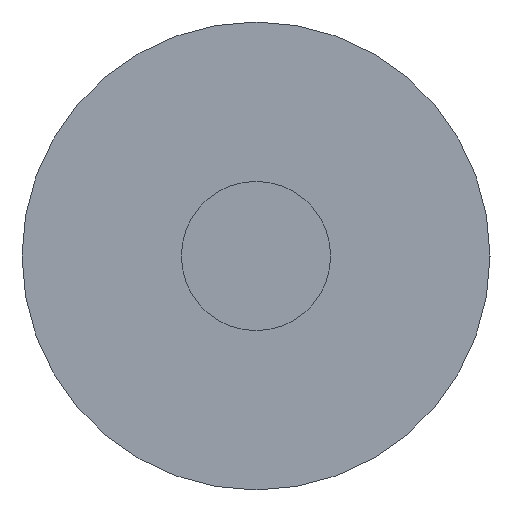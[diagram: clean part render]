
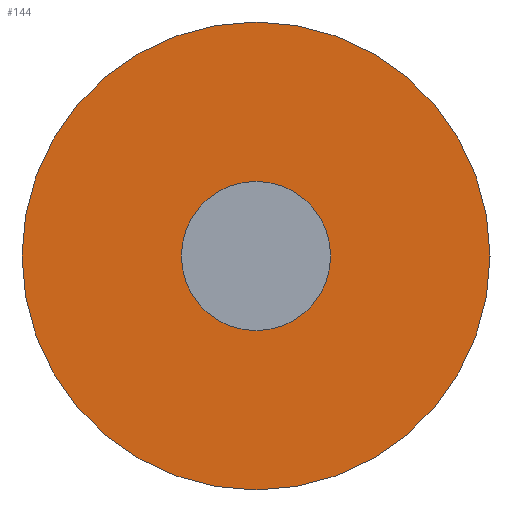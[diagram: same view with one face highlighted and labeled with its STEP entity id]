
A CAD part, left-side view. The second image highlights one B-rep face of the part: STEP entity #144.
In plain terms, the highlighted planar face has unit normal (-1, 0, 0).
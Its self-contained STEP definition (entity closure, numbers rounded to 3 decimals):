
#31 = CYLINDRICAL_SURFACE('',#32,16.);
#32 = AXIS2_PLACEMENT_3D('',#33,#34,#35);
#33 = CARTESIAN_POINT('',(-778.,550.,1185.));
#34 = DIRECTION('',(1.,0.,0.));
#35 = DIRECTION('',(-0.,0.,1.));
#56 = VERTEX_POINT('',#57);
#57 = CARTESIAN_POINT('',(-778.,550.,1201.));
#78 = EDGE_CURVE('',#56,#56,#79,.T.);
#79 = SURFACE_CURVE('',#80,(#85,#92),.PCURVE_S1.);
#80 = CIRCLE('',#81,16.);
#81 = AXIS2_PLACEMENT_3D('',#82,#83,#84);
#82 = CARTESIAN_POINT('',(-778.,550.,1185.));
#83 = DIRECTION('',(1.,0.,0.));
#84 = DIRECTION('',(-0.,0.,1.));
#85 = PCURVE('',#31,#86);
#86 = DEFINITIONAL_REPRESENTATION('',(#87),#91);
#87 = LINE('',#88,#89);
#88 = CARTESIAN_POINT('',(0.,0.));
#89 = VECTOR('',#90,1.);
#90 = DIRECTION('',(1.,0.));
#91 = ( GEOMETRIC_REPRESENTATION_CONTEXT(2) 
PARAMETRIC_REPRESENTATION_CONTEXT() REPRESENTATION_CONTEXT('2D SPACE',''
  ) );
#92 = PCURVE('',#93,#98);
#93 = PLANE('',#94);
#94 = AXIS2_PLACEMENT_3D('',#95,#96,#97);
#95 = CARTESIAN_POINT('',(-778.,550.,1185.));
#96 = DIRECTION('',(1.,0.,0.));
#97 = DIRECTION('',(-0.,0.,1.));
#98 = DEFINITIONAL_REPRESENTATION('',(#99),#103);
#99 = CIRCLE('',#100,16.);
#100 = AXIS2_PLACEMENT_2D('',#101,#102);
#101 = CARTESIAN_POINT('',(0.,0.));
#102 = DIRECTION('',(1.,0.));
#103 = ( GEOMETRIC_REPRESENTATION_CONTEXT(2) 
PARAMETRIC_REPRESENTATION_CONTEXT() REPRESENTATION_CONTEXT('2D SPACE',''
  ) );
#144 = ADVANCED_FACE('',(#145,#148),#93,.F.);
#145 = FACE_BOUND('',#146,.F.);
#146 = EDGE_LOOP('',(#147));
#147 = ORIENTED_EDGE('',*,*,#78,.T.);
#148 = FACE_BOUND('',#149,.F.);
#149 = EDGE_LOOP('',(#150));
#150 = ORIENTED_EDGE('',*,*,#151,.F.);
#151 = EDGE_CURVE('',#152,#152,#154,.T.);
#152 = VERTEX_POINT('',#153);
#153 = CARTESIAN_POINT('',(-778.,550.,1190.1));
#154 = SURFACE_CURVE('',#155,(#160,#167),.PCURVE_S1.);
#155 = CIRCLE('',#156,5.1);
#156 = AXIS2_PLACEMENT_3D('',#157,#158,#159);
#157 = CARTESIAN_POINT('',(-778.,550.,1185.));
#158 = DIRECTION('',(1.,0.,0.));
#159 = DIRECTION('',(-0.,0.,1.));
#160 = PCURVE('',#93,#161);
#161 = DEFINITIONAL_REPRESENTATION('',(#162),#166);
#162 = CIRCLE('',#163,5.1);
#163 = AXIS2_PLACEMENT_2D('',#164,#165);
#164 = CARTESIAN_POINT('',(0.,0.));
#165 = DIRECTION('',(1.,0.));
#166 = ( GEOMETRIC_REPRESENTATION_CONTEXT(2) 
PARAMETRIC_REPRESENTATION_CONTEXT() REPRESENTATION_CONTEXT('2D SPACE',''
  ) );
#167 = PCURVE('',#168,#173);
#168 = CYLINDRICAL_SURFACE('',#169,5.1);
#169 = AXIS2_PLACEMENT_3D('',#170,#171,#172);
#170 = CARTESIAN_POINT('',(-780.,550.,1185.));
#171 = DIRECTION('',(1.,0.,0.));
#172 = DIRECTION('',(-0.,0.,1.));
#173 = DEFINITIONAL_REPRESENTATION('',(#174),#178);
#174 = LINE('',#175,#176);
#175 = CARTESIAN_POINT('',(0.,2.));
#176 = VECTOR('',#177,1.);
#177 = DIRECTION('',(1.,0.));
#178 = ( GEOMETRIC_REPRESENTATION_CONTEXT(2) 
PARAMETRIC_REPRESENTATION_CONTEXT() REPRESENTATION_CONTEXT('2D SPACE',''
  ) );
